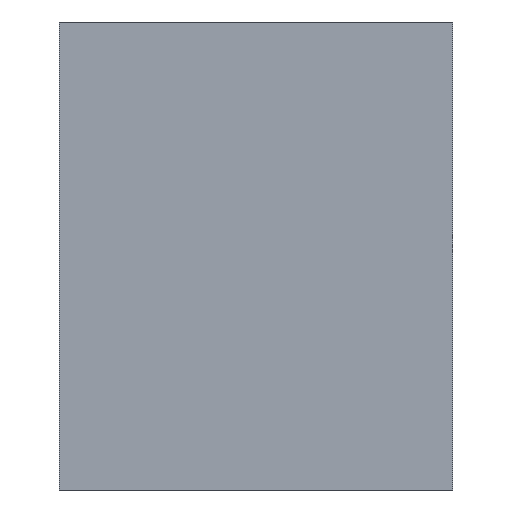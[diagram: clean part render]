
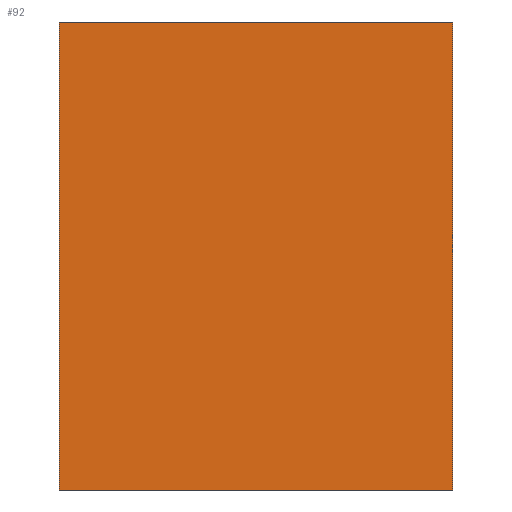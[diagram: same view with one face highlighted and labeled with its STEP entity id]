
A CAD part, top view. The second image highlights one B-rep face of the part: STEP entity #92.
In plain terms, the highlighted planar face has unit normal (0, 0, 1).
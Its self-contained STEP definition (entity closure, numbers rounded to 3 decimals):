
#53=CARTESIAN_POINT('Axis2P3D Location',(0.,0.,0.)) ;
#58=CARTESIAN_POINT('Line Origine',(52.5,0.,0.)) ;
#62=CARTESIAN_POINT('Vertex',(0.,0.,0.)) ;
#64=CARTESIAN_POINT('Vertex',(105.,0.,0.)) ;
#67=CARTESIAN_POINT('Line Origine',(105.,62.5,0.)) ;
#71=CARTESIAN_POINT('Vertex',(105.,125.,0.)) ;
#74=CARTESIAN_POINT('Line Origine',(52.5,125.,0.)) ;
#78=CARTESIAN_POINT('Vertex',(0.,125.,0.)) ;
#81=CARTESIAN_POINT('Line Origine',(0.,62.5,0.)) ;
#54=DIRECTION('Axis2P3D Direction',(0.,0.,1.)) ;
#55=DIRECTION('Axis2P3D XDirection',(1.,0.,0.)) ;
#59=DIRECTION('Vector Direction',(1.,0.,0.)) ;
#68=DIRECTION('Vector Direction',(0.,1.,0.)) ;
#75=DIRECTION('Vector Direction',(-1.,0.,0.)) ;
#82=DIRECTION('Vector Direction',(0.,-1.,0.)) ;
#56=AXIS2_PLACEMENT_3D('Plane Axis2P3D',#53,#54,#55) ;
#87=ORIENTED_EDGE('',*,*,#66,.T.) ;
#88=ORIENTED_EDGE('',*,*,#73,.T.) ;
#89=ORIENTED_EDGE('',*,*,#80,.T.) ;
#90=ORIENTED_EDGE('',*,*,#85,.T.) ;
#60=VECTOR('Line Direction',#59,1.) ;
#69=VECTOR('Line Direction',#68,1.) ;
#76=VECTOR('Line Direction',#75,1.) ;
#83=VECTOR('Line Direction',#82,1.) ;
#92=ADVANCED_FACE('Fill.1',(#91),#57,.T.) ;
#66=EDGE_CURVE('',#63,#65,#61,.T.) ;
#73=EDGE_CURVE('',#65,#72,#70,.T.) ;
#80=EDGE_CURVE('',#72,#79,#77,.T.) ;
#85=EDGE_CURVE('',#79,#63,#84,.T.) ;
#86=EDGE_LOOP('',(#87,#88,#89,#90)) ;
#91=FACE_OUTER_BOUND('',#86,.T.) ;
#61=LINE('Line',#58,#60) ;
#70=LINE('Line',#67,#69) ;
#77=LINE('Line',#74,#76) ;
#84=LINE('Line',#81,#83) ;
#57=PLANE('',#56) ;
#63=VERTEX_POINT('',#62) ;
#65=VERTEX_POINT('',#64) ;
#72=VERTEX_POINT('',#71) ;
#79=VERTEX_POINT('',#78) ;
